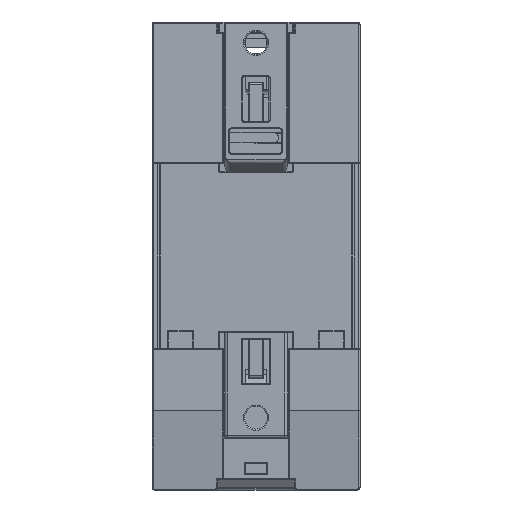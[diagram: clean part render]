
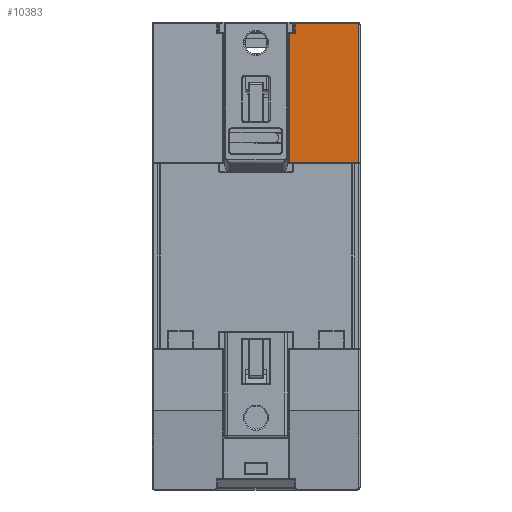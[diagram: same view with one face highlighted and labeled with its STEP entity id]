
A CAD part, front view. The second image highlights one B-rep face of the part: STEP entity #10383.
In plain terms, the highlighted planar face has unit normal (0, -1, 0).
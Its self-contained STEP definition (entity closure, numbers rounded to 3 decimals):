
#682 = ORIENTED_EDGE ( 'NONE', *, *, #35340, .T. ) ;
#1047 = VERTEX_POINT ( 'NONE', #25301 ) ;
#1422 = VERTEX_POINT ( 'NONE', #21588 ) ;
#1885 = CARTESIAN_POINT ( 'NONE',  ( 27.65, 0., -2. ) ) ;
#2249 = VECTOR ( 'NONE', #8473, 1000. ) ;
#4616 = EDGE_CURVE ( 'NONE', #12517, #33223, #33922, .T. ) ;
#5021 = DIRECTION ( 'NONE',  ( 0., -1., 0. ) ) ;
#5153 = LINE ( 'NONE', #36829, #32544 ) ;
#5551 = VERTEX_POINT ( 'NONE', #30122 ) ;
#5940 = CARTESIAN_POINT ( 'NONE',  ( 0., 0., 0. ) ) ;
#6521 = VECTOR ( 'NONE', #12664, 1000. ) ;
#7119 = EDGE_CURVE ( 'NONE', #5551, #26766, #29868, .T. ) ;
#7752 = EDGE_CURVE ( 'NONE', #1422, #5551, #24136, .T. ) ;
#8098 = CARTESIAN_POINT ( 'NONE',  ( 39.5, 0., -0.5 ) ) ;
#8473 = DIRECTION ( 'NONE',  ( 0., 0., -1. ) ) ;
#9035 = FACE_OUTER_BOUND ( 'NONE', #12185, .T. ) ;
#10383 = ADVANCED_FACE ( 'NONE', ( #9035 ), #21570, .T. ) ;
#11554 = LINE ( 'NONE', #1885, #2249 ) ;
#12005 = EDGE_CURVE ( 'NONE', #35368, #1047, #15760, .T. ) ;
#12185 = EDGE_LOOP ( 'NONE', ( #31817, #682, #20466, #36517, #36933, #16468, #30661, #34584 ) ) ;
#12517 = VERTEX_POINT ( 'NONE', #36869 ) ;
#12664 = DIRECTION ( 'NONE',  ( 1., 0., 0. ) ) ;
#13364 = AXIS2_PLACEMENT_3D ( 'NONE', #5940, #18480, #31030 ) ;
#13988 = CARTESIAN_POINT ( 'NONE',  ( 27.65, 0., -0.5 ) ) ;
#14239 = EDGE_CURVE ( 'NONE', #33223, #35368, #5153, .T. ) ;
#15760 = LINE ( 'NONE', #34884, #6521 ) ;
#16352 = CARTESIAN_POINT ( 'NONE',  ( 26.4, 0., -2.2 ) ) ;
#16468 = ORIENTED_EDGE ( 'NONE', *, *, #20196, .T. ) ;
#17146 = CIRCLE ( 'NONE', #21755, 0.3 ) ;
#18480 = DIRECTION ( 'NONE',  ( 0., -1., 0. ) ) ;
#20196 = EDGE_CURVE ( 'NONE', #20602, #12517, #11554, .T. ) ;
#20466 = ORIENTED_EDGE ( 'NONE', *, *, #7752, .T. ) ;
#20602 = VERTEX_POINT ( 'NONE', #13988 ) ;
#21394 = DIRECTION ( 'NONE',  ( 0., 0., -1. ) ) ;
#21570 = PLANE ( 'NONE',  #13364 ) ;
#21588 = CARTESIAN_POINT ( 'NONE',  ( 39.8, 0., -0.5 ) ) ;
#21755 = AXIS2_PLACEMENT_3D ( 'NONE', #31178, #35069, #34261 ) ;
#21969 = DIRECTION ( 'NONE',  ( -1., 0., 0. ) ) ;
#23153 = CARTESIAN_POINT ( 'NONE',  ( 27.95, 0., -0.2 ) ) ;
#23332 = LINE ( 'NONE', #39160, #37031 ) ;
#23539 = CARTESIAN_POINT ( 'NONE',  ( 26.4, 0., -27.05 ) ) ;
#23962 = DIRECTION ( 'NONE',  ( 0., 0., -1. ) ) ;
#24136 = CIRCLE ( 'NONE', #33328, 0.3 ) ;
#25301 = CARTESIAN_POINT ( 'NONE',  ( 39.8, 0., -27.05 ) ) ;
#26766 = VERTEX_POINT ( 'NONE', #23153 ) ;
#27585 = DIRECTION ( 'NONE',  ( -1., 0., 0. ) ) ;
#29868 = LINE ( 'NONE', #39536, #37883 ) ;
#30122 = CARTESIAN_POINT ( 'NONE',  ( 39.5, 0., -0.2 ) ) ;
#30661 = ORIENTED_EDGE ( 'NONE', *, *, #4616, .T. ) ;
#31030 = DIRECTION ( 'NONE',  ( 0., 0., -1. ) ) ;
#31178 = CARTESIAN_POINT ( 'NONE',  ( 27.95, 0., -0.5 ) ) ;
#31229 = CARTESIAN_POINT ( 'NONE',  ( 0., 0., -2.2 ) ) ;
#31817 = ORIENTED_EDGE ( 'NONE', *, *, #12005, .T. ) ;
#32472 = VECTOR ( 'NONE', #21969, 1000. ) ;
#32544 = VECTOR ( 'NONE', #21394, 1000. ) ;
#33194 = EDGE_CURVE ( 'NONE', #26766, #20602, #17146, .T. ) ;
#33223 = VERTEX_POINT ( 'NONE', #16352 ) ;
#33328 = AXIS2_PLACEMENT_3D ( 'NONE', #8098, #5021, #23962 ) ;
#33388 = DIRECTION ( 'NONE',  ( 0., 0., 1. ) ) ;
#33922 = LINE ( 'NONE', #31229, #32472 ) ;
#34261 = DIRECTION ( 'NONE',  ( 0., 0., -1. ) ) ;
#34584 = ORIENTED_EDGE ( 'NONE', *, *, #14239, .T. ) ;
#34884 = CARTESIAN_POINT ( 'NONE',  ( 40., 0., -27.05 ) ) ;
#35069 = DIRECTION ( 'NONE',  ( 0., -1., 0. ) ) ;
#35340 = EDGE_CURVE ( 'NONE', #1047, #1422, #23332, .T. ) ;
#35368 = VERTEX_POINT ( 'NONE', #23539 ) ;
#36517 = ORIENTED_EDGE ( 'NONE', *, *, #7119, .T. ) ;
#36829 = CARTESIAN_POINT ( 'NONE',  ( 26.4, 0., -27.25 ) ) ;
#36869 = CARTESIAN_POINT ( 'NONE',  ( 27.65, 0., -2.2 ) ) ;
#36933 = ORIENTED_EDGE ( 'NONE', *, *, #33194, .T. ) ;
#37031 = VECTOR ( 'NONE', #33388, 1000. ) ;
#37883 = VECTOR ( 'NONE', #27585, 1000. ) ;
#39160 = CARTESIAN_POINT ( 'NONE',  ( 39.8, 0., -0.5 ) ) ;
#39536 = CARTESIAN_POINT ( 'NONE',  ( 27.95, 0., -0.2 ) ) ;
